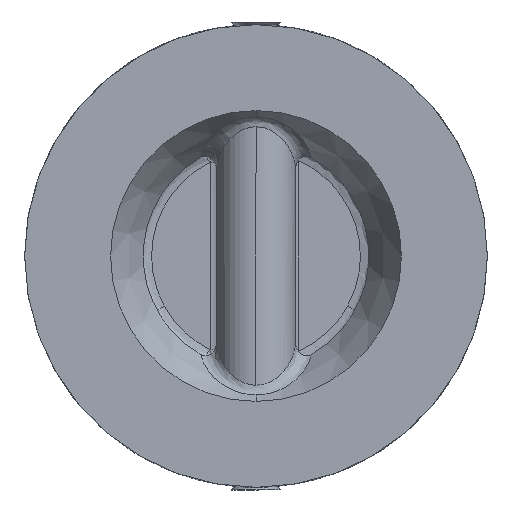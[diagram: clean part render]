
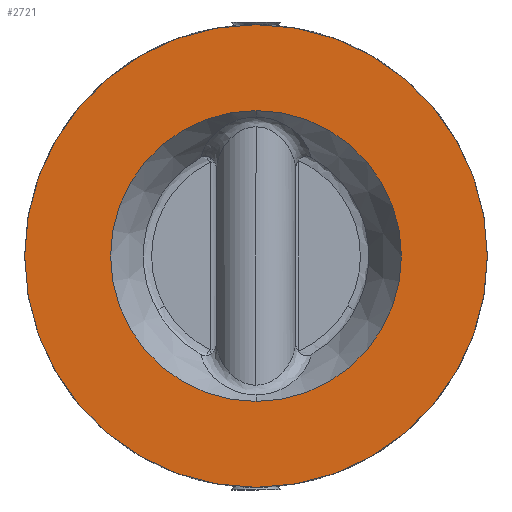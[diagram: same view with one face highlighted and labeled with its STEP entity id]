
A CAD part, front view. The second image highlights one B-rep face of the part: STEP entity #2721.
In plain terms, the highlighted planar face has unit normal (0, -1, 0).
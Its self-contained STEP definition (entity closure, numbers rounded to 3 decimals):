
#849 = VERTEX_POINT ( 'NONE', #24182 ) ;
#2542 = DIRECTION ( 'NONE',  ( 0., 0., -1. ) ) ;
#2721 = ADVANCED_FACE ( 'NONE', ( #9255, #17764 ), #24898, .T. ) ;
#2834 = VERTEX_POINT ( 'NONE', #15401 ) ;
#3359 = DIRECTION ( 'NONE',  ( 0., -1., 0. ) ) ;
#3526 = CIRCLE ( 'NONE', #36891, 41. ) ;
#3594 = AXIS2_PLACEMENT_3D ( 'NONE', #40698, #21620, #2542 ) ;
#5819 = DIRECTION ( 'NONE',  ( 0., -1., 0. ) ) ;
#6333 = ORIENTED_EDGE ( 'NONE', *, *, #22327, .T. ) ;
#8461 = ORIENTED_EDGE ( 'NONE', *, *, #36563, .T. ) ;
#9255 = FACE_BOUND ( 'NONE', #32397, .T. ) ;
#9282 = CARTESIAN_POINT ( 'NONE',  ( 0., 0., 41. ) ) ;
#11324 = ORIENTED_EDGE ( 'NONE', *, *, #17102, .T. ) ;
#12510 = EDGE_CURVE ( 'NONE', #28269, #849, #28385, .T. ) ;
#14224 = DIRECTION ( 'NONE',  ( 0., 1., 0. ) ) ;
#15401 = CARTESIAN_POINT ( 'NONE',  ( 0., 0., -41. ) ) ;
#15859 = VERTEX_POINT ( 'NONE', #9282 ) ;
#16282 = EDGE_LOOP ( 'NONE', ( #6333, #8461 ) ) ;
#17102 = EDGE_CURVE ( 'NONE', #849, #28269, #24314, .T. ) ;
#17764 = FACE_OUTER_BOUND ( 'NONE', #16282, .T. ) ;
#18500 = CARTESIAN_POINT ( 'NONE',  ( 0., 0., 0. ) ) ;
#18573 = CARTESIAN_POINT ( 'NONE',  ( 0., 0., 0. ) ) ;
#20714 = CIRCLE ( 'NONE', #3594, 41. ) ;
#20964 = ORIENTED_EDGE ( 'NONE', *, *, #12510, .T. ) ;
#21620 = DIRECTION ( 'NONE',  ( 0., -1., 0. ) ) ;
#21771 = DIRECTION ( 'NONE',  ( 0., 0., -1. ) ) ;
#22327 = EDGE_CURVE ( 'NONE', #2834, #15859, #20714, .T. ) ;
#22448 = CARTESIAN_POINT ( 'NONE',  ( 0., 0., 0. ) ) ;
#24182 = CARTESIAN_POINT ( 'NONE',  ( 0., 0., -25.774 ) ) ;
#24314 = CIRCLE ( 'NONE', #33539, 25.774 ) ;
#24898 = PLANE ( 'NONE',  #37689 ) ;
#25642 = DIRECTION ( 'NONE',  ( 0., 0., -1. ) ) ;
#28101 = DIRECTION ( 'NONE',  ( 0., 0., -1. ) ) ;
#28269 = VERTEX_POINT ( 'NONE', #35340 ) ;
#28385 = CIRCLE ( 'NONE', #40421, 25.774 ) ;
#32397 = EDGE_LOOP ( 'NONE', ( #11324, #20964 ) ) ;
#33338 = CARTESIAN_POINT ( 'NONE',  ( 0., 0., 0. ) ) ;
#33539 = AXIS2_PLACEMENT_3D ( 'NONE', #33338, #14224, #36534 ) ;
#35340 = CARTESIAN_POINT ( 'NONE',  ( 0., 0., 25.774 ) ) ;
#36534 = DIRECTION ( 'NONE',  ( 0., 0., -1. ) ) ;
#36563 = EDGE_CURVE ( 'NONE', #15859, #2834, #3526, .T. ) ;
#36891 = AXIS2_PLACEMENT_3D ( 'NONE', #22448, #3359, #25642 ) ;
#37689 = AXIS2_PLACEMENT_3D ( 'NONE', #18500, #5819, #28101 ) ;
#40421 = AXIS2_PLACEMENT_3D ( 'NONE', #18573, #40847, #21771 ) ;
#40698 = CARTESIAN_POINT ( 'NONE',  ( 0., 0., 0. ) ) ;
#40847 = DIRECTION ( 'NONE',  ( 0., 1., 0. ) ) ;
